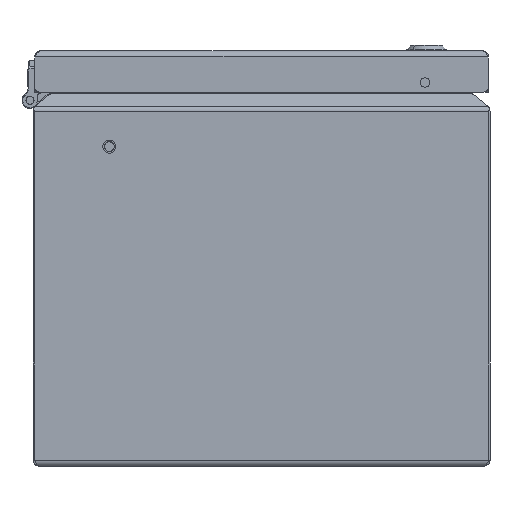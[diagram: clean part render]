
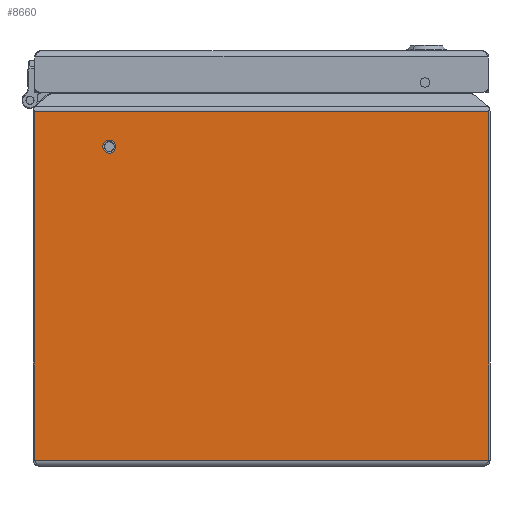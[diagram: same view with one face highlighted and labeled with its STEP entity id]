
A CAD part, front view. The second image highlights one B-rep face of the part: STEP entity #8660.
In plain terms, the highlighted planar face has unit normal (0, -1, 0).
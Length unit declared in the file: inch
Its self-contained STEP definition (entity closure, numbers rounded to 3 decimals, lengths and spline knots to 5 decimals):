
#402=DIRECTION('',(1.,0.,0.));
#403=VECTOR('',#402,8.958);
#404=CARTESIAN_POINT('',(-4.479,-6.,0.12));
#405=LINE('',#404,#403);
#3449=DIRECTION('',(0.,0.,1.));
#3450=VECTOR('',#3449,6.87309);
#3451=CARTESIAN_POINT('',(4.479,-6.,0.12));
#3452=LINE('',#3451,#3450);
#3456=DIRECTION('',(0.,0.,1.));
#3457=VECTOR('',#3456,6.87304);
#3458=CARTESIAN_POINT('',(-4.479,-6.,0.12));
#3459=LINE('',#3458,#3457);
#3463=DIRECTION('',(1.,0.,0.));
#3464=VECTOR('',#3463,8.95799);
#3465=CARTESIAN_POINT('',(-4.47899,-6.,
6.99304));
#3466=LINE('',#3465,#3464);
#3470=CARTESIAN_POINT('',(-3.,-6.,6.299));
#3471=DIRECTION('',(0.,-1.,0.));
#3472=DIRECTION('',(0.,0.,-1.));
#3473=AXIS2_PLACEMENT_3D('',#3470,#3471,#3472);
#3478=CARTESIAN_POINT('',(-3.,-6.,6.299));
#3479=DIRECTION('',(0.,-1.,0.));
#3480=DIRECTION('',(0.,0.,1.));
#3481=AXIS2_PLACEMENT_3D('',#3478,#3479,#3480);
#4611=CARTESIAN_POINT('',(-4.479,-6.,0.12));
#4612=CARTESIAN_POINT('',(-4.47899,-6.,
6.99304));
#4613=VERTEX_POINT('',#4611);
#4614=VERTEX_POINT('',#4612);
#4635=CARTESIAN_POINT('',(4.479,-6.,0.12));
#4636=CARTESIAN_POINT('',(4.479,-6.,6.99309));
#4637=VERTEX_POINT('',#4635);
#4638=VERTEX_POINT('',#4636);
#5100=CARTESIAN_POINT('',(-3.,-6.,6.20095));
#5101=CARTESIAN_POINT('',(-3.,-6.,6.39705));
#5102=VERTEX_POINT('',#5100);
#5103=VERTEX_POINT('',#5101);
#8641=CARTESIAN_POINT('',(-4.5,-6.,0.));
#8642=DIRECTION('',(0.,-1.,0.));
#8643=DIRECTION('',(1.,0.,0.));
#8644=AXIS2_PLACEMENT_3D('',#8641,#8642,#8643);
#8645=PLANE('',#8644);
#8646=ORIENTED_EDGE('',*,*,#8632,.F.);
#8647=ORIENTED_EDGE('',*,*,#5506,.F.);
#8649=ORIENTED_EDGE('',*,*,#8648,.T.);
#8651=ORIENTED_EDGE('',*,*,#8650,.T.);
#8652=EDGE_LOOP('',(#8646,#8647,#8649,#8651));
#8653=FACE_OUTER_BOUND('',#8652,.F.);
#8655=ORIENTED_EDGE('',*,*,#8654,.T.);
#8657=ORIENTED_EDGE('',*,*,#8656,.T.);
#8658=EDGE_LOOP('',(#8655,#8657));
#8659=FACE_BOUND('',#8658,.F.);
#3474=CIRCLE('',#3473,0.09805);
#3482=CIRCLE('',#3481,0.09805);
#5506=EDGE_CURVE('',#4613,#4637,#405,.T.);
#8632=EDGE_CURVE('',#4637,#4638,#3452,.T.);
#8648=EDGE_CURVE('',#4613,#4614,#3459,.T.);
#8650=EDGE_CURVE('',#4614,#4638,#3466,.T.);
#8654=EDGE_CURVE('',#5102,#5103,#3474,.T.);
#8656=EDGE_CURVE('',#5103,#5102,#3482,.T.);
#8660=ADVANCED_FACE('',(#8653,#8659),#8645,.T.);
